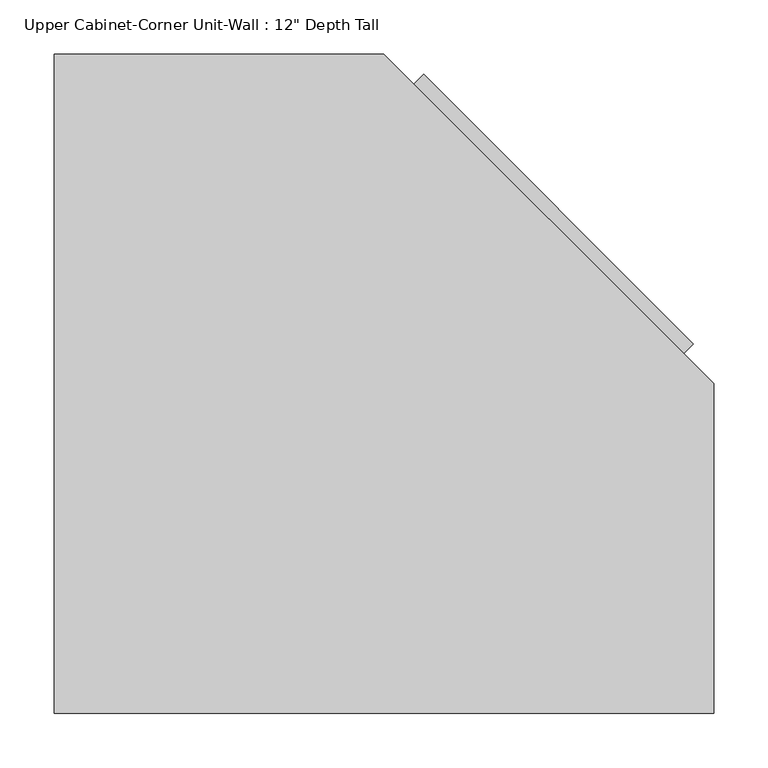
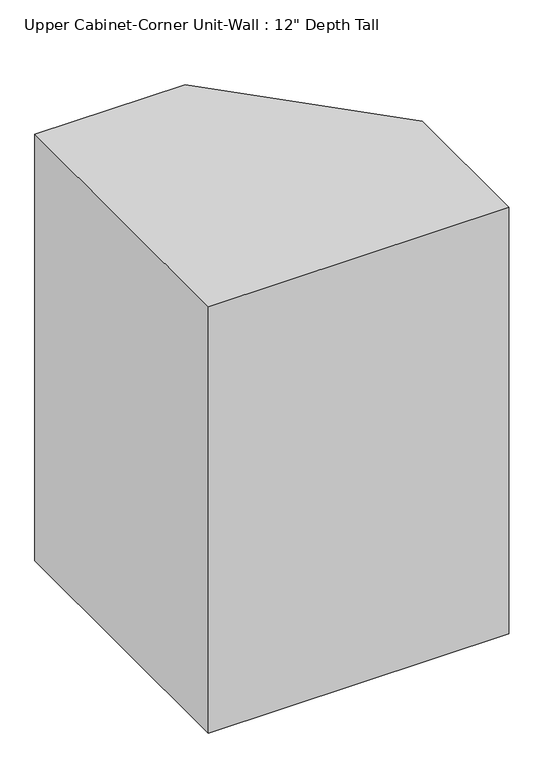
"""IFC4 building model written with IfcOpenShell, lengths in millimetres: furniture geometry."""

from ifc_helpers import new_model, si_unit, frame, origin, place, context, project, spatial, polyline, outline, extrude, faceted_brep, source, transform, mapped, element, save


def furniture_84be1c78(model_context):
    return source(origin(), model_context, "Body", "SolidModel", [
        extrude(outline(polyline([(295.0625715, 648.0191036), (544.4402664, 398.6414087), (526.4797541, 380.6808964), (277.1020592, 630.0585913), (295.0625715, 648.0191036)])), frame((0.0, 0.0, 1276.35), z_axis=(0.0, 0.0, 1.0), x_axis=(1.0, 0.0, 0.0)), (0.0, 0.0, 1.0), 800.1),
        extrude(outline(polyline([(-27.3788372, 647.7), (250.4803944, 647.7), (544.1211628, 354.0592316), (544.1211628, 76.2), (-27.3788372, 76.2), (-27.3788372, 647.7)])), frame((0.0, 0.0, 1219.2), z_axis=(0.0, 0.0, 1.0), x_axis=(1.0, 0.0, 0.0)), (0.0, 0.0, 1.0), 25.4),
        faceted_brep([(-46.4288372, 666.75, 1219.2), (258.3711628, 666.75, 1219.2), (563.1711628, 361.95, 1219.2), (563.1711628, 57.15, 1219.2), (-46.4288372, 57.15, 1219.2), (250.4803944, 647.7, 1219.2), (-27.3788372, 647.7, 1219.2), (-27.3788372, 76.2, 1219.2), (544.1211628, 76.2, 1219.2), (544.1211628, 354.0592316, 1219.2), (-46.4288372, 666.75, 2133.6), (-46.4288372, 57.15, 2133.6), (563.1711628, 57.15, 2133.6), (563.1711628, 361.95, 2133.6), (258.3711628, 666.75, 2133.6), (250.4803944, 647.7, 2108.2), (-27.3788372, 647.7, 2108.2), (-27.3788372, 76.2, 2108.2), (544.1211628, 76.2, 2108.2), (544.1211628, 354.0592316, 2108.2), (535.4600102, 389.6611525, 2076.45), (286.0823153, 639.0388475, 2076.45), (286.0823153, 639.0388475, 1276.35), (535.4600102, 389.6611525, 1276.35), (272.6119312, 625.5684633, 2076.45), (521.9896261, 376.1907684, 2076.45), (521.9896261, 376.1907684, 1276.35), (272.6119312, 625.5684633, 1276.35)], [[[0, 1, 2, 3, 4], [5, 6, 7, 8, 9]], [[10, 11, 12, 13, 14]], [[1, 0, 10, 14]], [[6, 5, 15, 16]], [[7, 6, 16, 17]], [[8, 7, 17, 18]], [[9, 8, 18, 19]], [[3, 2, 13, 12]], [[4, 3, 12, 11]], [[0, 4, 11, 10]], [[16, 15, 19, 18, 17]], [[2, 1, 14, 13], [20, 21, 22, 23]], [[5, 9, 19, 15], [24, 25, 26, 27]], [[20, 25, 24, 21]], [[22, 27, 26, 23]], [[21, 24, 27, 22]], [[25, 20, 23, 26]]]),
    ])


if __name__ == "__main__":
    model = new_model("IFC4")
    model_context = context("Model", 3, world=origin())
    ifc_project = project(units=[si_unit("LENGTHUNIT", "METRE", prefix="MILLI")], contexts=[model_context])
    site = spatial("IfcSite", under=ifc_project)
    building = spatial("IfcBuilding", under=site)
    placement = place(None, origin())
    furniture_shape = furniture_84be1c78(model_context)
    element("IfcFurniture", 1, ObjectType="Upper Cabinet-Corner Unit-Wall : 12\" Depth Tall", at=placement, inside=building, context=model_context, shape_type="MappedRepresentation", body=[
        mapped(furniture_shape, transform((0.0, 0.0, 0.0), x_axis=(1.0, 0.0, 0.0), y_axis=(0.0, 1.0, 0.0), z_axis=(0.0, 0.0, 1.0))),
    ])
    save(model, "model.ifc")
